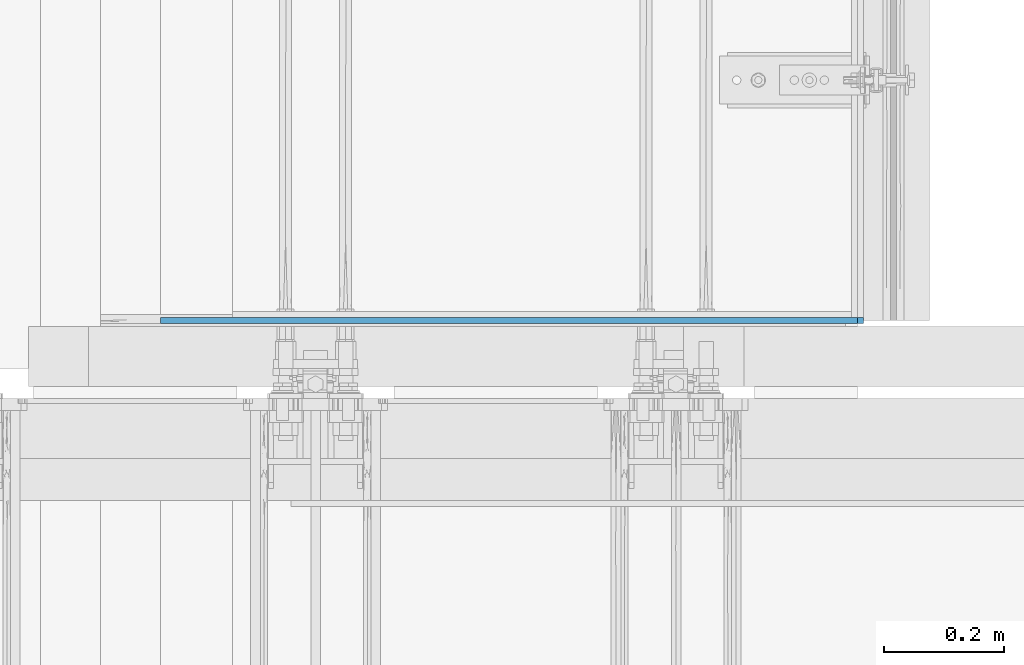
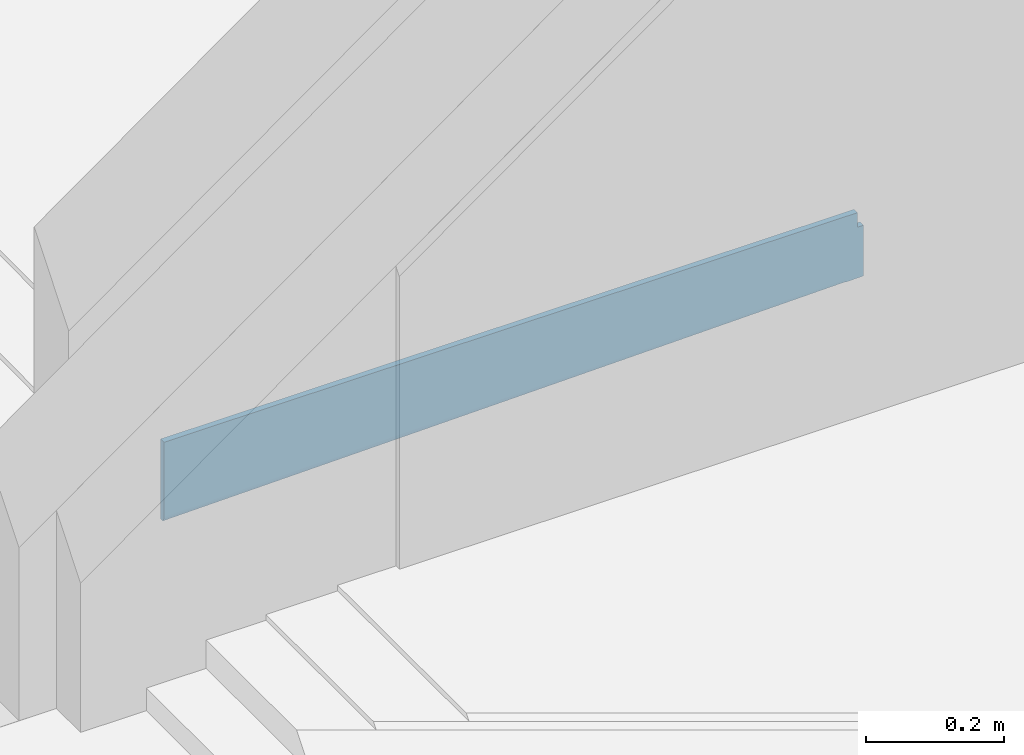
# One storey, part 9 of 17: 1 wall.
"""IFC2X3 building model written with IfcOpenShell, lengths in metres."""

from ifc_helpers import new_model, entity, si_unit, converted_unit, derived_unit, direction, frame, origin, place, context, subcontext, project, spatial, faceted_brep, material, layer, layer_set, type_object, element, save


model = new_model("IFC2X3")

# Units and contexts
model_context = context("Model", 3, precision=1e-05, world=origin(), true_north=direction((6.123031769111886e-17, 1.0)))
plan_context = context("Plan", 3, precision=1e-05, world=origin(), true_north=direction((6.123031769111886e-17, 1.0)))
body_context = subcontext(model_context, "Body", "Model", "MODEL_VIEW")
ifc_project = project(units=[si_unit("LENGTHUNIT", "METRE"), si_unit("AREAUNIT", "SQUARE_METRE"), converted_unit("PLANEANGLEUNIT", "DEGREE", entity("IfcPlaneAngleMeasure", 0.017453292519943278), si_unit("PLANEANGLEUNIT", "RADIAN"), dimensions=[0, 0, 0, 0, 0, 0, 0]), si_unit("VOLUMEUNIT", "CUBIC_METRE"), derived_unit("THERMALTRANSMITTANCEUNIT", [(si_unit("MASSUNIT", "GRAM", prefix="KILO"), 1), (si_unit("THERMODYNAMICTEMPERATUREUNIT", "KELVIN"), -1), (si_unit("TIMEUNIT", "SECOND"), -3)]), derived_unit("USERDEFINED", [(si_unit("MASSUNIT", "GRAM", prefix="KILO"), 1), (si_unit("THERMODYNAMICTEMPERATUREUNIT", "KELVIN"), -1), (si_unit("TIMEUNIT", "SECOND"), -2)]), derived_unit("THERMALRESISTANCEUNIT", [(si_unit("MASSUNIT", "GRAM", prefix="KILO"), -1), (si_unit("TIMEUNIT", "SECOND"), 3), (si_unit("THERMODYNAMICTEMPERATUREUNIT", "KELVIN"), 1)]), si_unit("PRESSUREUNIT", "PASCAL"), derived_unit("MASSDENSITYUNIT", [(si_unit("MASSUNIT", "GRAM", prefix="KILO"), 1), (si_unit("LENGTHUNIT", "METRE"), -3)]), derived_unit("VAPORPERMEABILITYUNIT", [(si_unit("LENGTHUNIT", "METRE"), -1), (si_unit("TIMEUNIT", "SECOND"), 1)]), derived_unit("USERDEFINED", [(si_unit("MASSUNIT", "GRAM", prefix="KILO"), 1), (si_unit("TIMEUNIT", "SECOND"), -3), (si_unit("LENGTHUNIT", "METRE"), 3), (si_unit("ELECTRICCURRENTUNIT", "AMPERE"), -2)])], contexts=[model_context, plan_context])

# Site, building, storey
site_placement = place(None, origin())
site = spatial("IfcSite", under=ifc_project, at=site_placement, Name="Default", CompositionType="ELEMENT")
building_placement = place(site_placement, origin())
building = spatial("IfcBuilding", under=site, at=building_placement, CompositionType="ELEMENT")
storey_placement = place(building_placement, origin())
storey = spatial("IfcBuildingStorey", under=building, at=storey_placement, Name="L0", CompositionType="ELEMENT", Elevation=0.0)

# Wall
ifc_material = material(Name="Hormigón - Hormigón moldeado in situ")
ifc_layer = layer(ifc_material, 0.01)
ifc_layer_set = layer_set([ifc_layer], Name="Muro básico:DPG_Pegamento cementoso")
wall_type = type_object("IfcWallType", Name="Muro básico:DPG_Pegamento cementoso", PredefinedType="STANDARD", material=ifc_layer_set)
wall_placement = place(storey_placement, frame((7.897720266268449, 14.924530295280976, 0.0828047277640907), z_axis=(0.0, 0.0, 1.0), x_axis=(-1.0, 0.0, 0.0)))
element("IfcWall", 1, at=wall_placement, inside=storey, type_object=wall_type, Name="Muro básico:DPG_Pegamento cementoso", ObjectType="Muro básico:DPG_Pegamento cementoso", context=body_context, shape_type="Brep", body=[
    faceted_brep([(0.0, -0.004999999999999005, 0.11719527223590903), (0.0, -0.004999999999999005, 0.027416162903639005), (1.1700000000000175, -0.004999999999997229, 0.0015952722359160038), (1.1700000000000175, -0.004999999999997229, 0.0065952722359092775), (1.1700000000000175, -0.004999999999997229, 0.1428497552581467), (0.02000000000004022, -0.004999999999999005, 0.1428497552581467), (0.010000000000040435, -0.004999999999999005, 0.1428497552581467), (0.010000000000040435, -0.004999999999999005, 0.11719527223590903), (1.1700000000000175, 0.005000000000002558, 0.11719527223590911), (1.1700000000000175, 0.005000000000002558, 0.011297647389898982), (1.1272712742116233, 0.00500000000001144, 0.01208092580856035), (1.0845425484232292, 0.00500000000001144, 0.012864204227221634), (1.02750000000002, 0.00500000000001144, 0.013909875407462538), (0.9918749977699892, 0.005000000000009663, 0.014562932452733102), (0.9562499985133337, 0.005000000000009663, 0.015215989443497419), (0.9206249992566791, 0.005000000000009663, 0.01586904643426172), (0.8850000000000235, 0.005000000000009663, 0.01652210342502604), (0.8493750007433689, 0.005000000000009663, 0.017175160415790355), (0.8137500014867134, 0.005000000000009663, 0.017828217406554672), (0.7781250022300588, 0.005000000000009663, 0.018481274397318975), (0.7425000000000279, 0.005000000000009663, 0.01913433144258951), (0.7068749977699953, 0.005000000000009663, 0.01978738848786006), (0.6712499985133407, 0.005000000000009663, 0.020440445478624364), (0.6356249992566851, 0.005000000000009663, 0.021093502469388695), (0.6000000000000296, 0.005000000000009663, 0.021746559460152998), (0.564375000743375, 0.005000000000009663, 0.02239961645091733), (0.5287500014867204, 0.005000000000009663, 0.023052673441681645), (0.49312500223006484, 0.005000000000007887, 0.02370573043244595), (0.457500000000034, 0.005000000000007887, 0.024358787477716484), (0.42187499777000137, 0.005000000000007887, 0.025011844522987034), (0.3862499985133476, 0.005000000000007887, 0.025664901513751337), (0.3506249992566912, 0.005000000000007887, 0.026317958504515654), (0.3150000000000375, 0.005000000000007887, 0.026971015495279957), (0.27937500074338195, 0.005000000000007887, 0.0276240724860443), (0.2437500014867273, 0.005000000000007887, 0.028277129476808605), (0.20812500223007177, 0.005000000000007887, 0.028930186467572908), (0.17250000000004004, 0.005000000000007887, 0.029583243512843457), (0.11545745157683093, 0.005000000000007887, 0.030628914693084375), (0.07272872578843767, 0.005000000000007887, 0.031412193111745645), (0.03000000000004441, 0.005000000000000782, 0.032195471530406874), (0.03000000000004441, 0.005000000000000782, 0.02675408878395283), (0.0, 0.005000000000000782, 0.027416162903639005), (0.0, 0.005000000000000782, 0.11719527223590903), (0.010000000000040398, 0.005000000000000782, 0.11719527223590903), (0.010000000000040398, 0.005000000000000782, 0.1428497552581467), (1.1700000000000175, 0.005000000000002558, 0.1428497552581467), (0.030000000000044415, 0.003978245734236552, 0.026754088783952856), (0.09333342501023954, 0.003881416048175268, 0.02535637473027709), (0.15666685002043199, 0.0037845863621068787, 0.023958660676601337), (0.22000025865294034, 0.0036781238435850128, 0.022560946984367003), (0.28333366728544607, 0.0035716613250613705, 0.021163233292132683), (0.34666705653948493, 0.003455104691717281, 0.019765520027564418), (0.4100004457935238, 0.0033385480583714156, 0.018367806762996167), (0.47333381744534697, 0.0032113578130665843, 0.016970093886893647), (0.5366671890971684, 0.0030841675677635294, 0.015572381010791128), (0.6000005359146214, 0.002945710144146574, 0.014174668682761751), (0.6633338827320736, 0.0028072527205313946, 0.012776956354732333), (0.7266671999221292, 0.0026567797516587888, 0.011379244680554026), (0.790000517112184, 0.002506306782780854, 0.00998153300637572), (0.8533338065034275, 0.0023429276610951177, 0.008583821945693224), (0.9166670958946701, 0.0021795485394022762, 0.007186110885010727), (0.9800003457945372, 0.0020021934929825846, 0.005788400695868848), (1.0433335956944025, 0.0018248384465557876, 0.004390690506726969), (1.10666679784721, 0.0016322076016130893, 0.0029929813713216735), (1.1700000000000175, 0.001439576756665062, 0.0015952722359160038), (1.1700000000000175, 0.003380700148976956, 0.00451849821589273), (1.1700000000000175, 0.004589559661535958, 0.00781271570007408), (0.030000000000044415, 0.004731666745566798, 0.029370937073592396), (0.5710963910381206, 0.00447787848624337, 0.01835326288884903), (0.507502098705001, 0.004472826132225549, 0.01950043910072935), (1.1059069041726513, 0.004811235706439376, 0.010100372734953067), (0.9918749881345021, 0.004414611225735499, 0.010413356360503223), (0.3167560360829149, 0.004415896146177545, 0.02279371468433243), (0.8671874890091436, 0.004778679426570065, 0.014281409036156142), (1.1031748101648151, 0.004081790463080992, 0.007355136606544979), (1.063440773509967, 0.003462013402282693, 0.006634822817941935), (0.46058544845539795, 0.004497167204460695, 0.02045097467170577), (0.763461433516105, 0.004336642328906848, 0.01433865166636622), (0.8248108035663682, 0.0042511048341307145, 0.012945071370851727), (1.0184158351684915, 0.0033830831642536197, 0.007301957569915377), (0.702129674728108, 0.004437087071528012, 0.015803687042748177), (0.13833580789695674, 0.004711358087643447, 0.027281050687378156), (0.18177469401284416, 0.004636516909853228, 0.026131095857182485), (1.0560212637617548, 0.004607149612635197, 0.009976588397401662), (0.09409308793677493, 0.0047617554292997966, 0.028357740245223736), (0.3640654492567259, 0.0046277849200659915, 0.02275074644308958), (0.4144269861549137, 0.004652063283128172, 0.0219363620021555), (0.27434650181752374, 0.004718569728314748, 0.024824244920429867), (0.22593749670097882, 0.004693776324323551, 0.0255882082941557), (0.9613356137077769, 0.003570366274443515, 0.008731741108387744), (0.9278333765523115, 0.004343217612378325, 0.01134690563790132), (0.8767177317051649, 0.004034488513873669, 0.01137929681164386), (0.6442076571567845, 0.004476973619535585, 0.01700969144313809), (0.6076440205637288, 0.00417846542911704, 0.016710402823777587)], [[[0, 1, 2, 3, 4, 5, 6, 7]], [[8, 9, 10, 11, 12, 13, 14, 15, 16, 17, 18, 19, 20, 21, 22, 23, 24, 25, 26, 27, 28, 29, 30, 31, 32, 33, 34, 35, 36, 37, 38, 39, 40, 41, 42, 43, 44, 45]], [[2, 1, 41, 40, 46, 47, 48, 49, 50, 51, 52, 53, 54, 55, 56, 57, 58, 59, 60, 61, 62, 63, 64]], [[2, 64, 65, 66, 9, 8, 45, 4, 3]], [[5, 4, 45, 44, 6]], [[40, 39, 67, 46]], [[26, 68, 69]], [[10, 70, 11]], [[13, 12, 71, 14]], [[50, 72, 51]], [[27, 26, 69]], [[16, 15, 73, 17]], [[74, 63, 75]], [[76, 69, 53]], [[77, 78, 58]], [[75, 62, 79]], [[21, 20, 80, 22]], [[81, 82, 48]], [[10, 9, 66]], [[12, 11, 83]], [[84, 47, 46]], [[81, 47, 84]], [[65, 74, 66]], [[52, 85, 86]], [[84, 46, 67]], [[84, 37, 81]], [[70, 74, 83]], [[38, 84, 67]], [[34, 87, 88]], [[37, 84, 38]], [[67, 39, 38]], [[17, 78, 19, 18]], [[63, 65, 64]], [[74, 65, 63]], [[66, 70, 10]], [[48, 47, 81]], [[88, 87, 49]], [[81, 37, 36]], [[36, 82, 81]], [[82, 49, 48]], [[49, 82, 88]], [[35, 88, 82]], [[89, 61, 60]], [[83, 74, 75]], [[90, 71, 89]], [[83, 71, 12]], [[90, 14, 71]], [[62, 61, 79]], [[90, 60, 91]], [[58, 78, 59]], [[91, 59, 78]], [[77, 80, 20]], [[77, 19, 78]], [[23, 22, 92, 24]], [[77, 57, 80]], [[57, 56, 80]], [[92, 80, 56]], [[77, 58, 57]], [[92, 22, 80]], [[93, 68, 24]], [[55, 54, 68]], [[93, 92, 56]], [[55, 68, 93]], [[53, 69, 54]], [[26, 25, 24, 68]], [[34, 88, 35]], [[82, 36, 35]], [[50, 49, 87]], [[85, 30, 86]], [[33, 32, 87, 34]], [[87, 72, 50]], [[51, 72, 85]], [[31, 85, 72]], [[72, 87, 32]], [[51, 85, 52]], [[72, 32, 31]], [[53, 52, 76]], [[29, 28, 86, 30]], [[54, 69, 68]], [[76, 28, 27]], [[11, 70, 83]], [[74, 70, 66]], [[71, 83, 79]], [[62, 75, 63]], [[75, 79, 83]], [[89, 71, 79]], [[59, 91, 60]], [[90, 73, 15]], [[76, 27, 69]], [[86, 76, 52]], [[91, 78, 73]], [[17, 73, 78]], [[91, 73, 90]], [[90, 89, 60]], [[61, 89, 79]], [[15, 14, 90]], [[77, 20, 19]], [[55, 93, 56]], [[92, 93, 24]], [[31, 30, 85]], [[76, 86, 28]], [[7, 43, 42, 0]], [[42, 41, 1, 0]], [[44, 43, 7, 6]]]),
])

save(model, "model.ifc")
